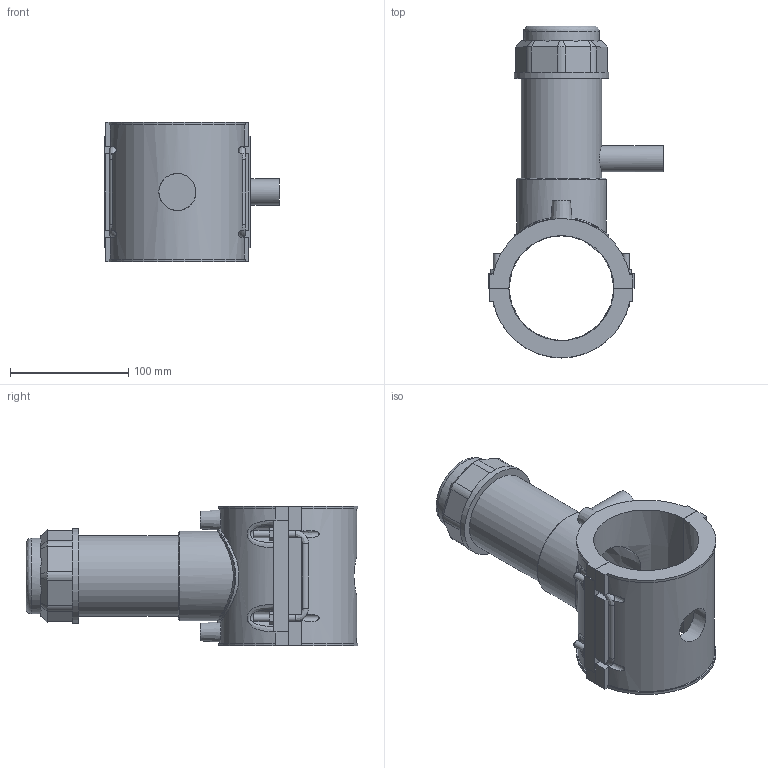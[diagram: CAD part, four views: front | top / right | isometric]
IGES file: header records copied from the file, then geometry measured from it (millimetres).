
Global section: file name: 5963BU03030007.ipt; native system: Autodesk Inventor 2019; preprocessor: unknown; author: KIM; date: 20210830.101452; units: millimetre
Bounding box: 147.56 x 280.2 x 118.11 mm (x, y, z)
Volume: 851775.2 mm3; surface area: 171794 mm2
Topology: 1 solids, 1 shells, 210 faces, 552 edges, 361 vertices
Faces by surface type: plane 128, cylinder 37, revolution 24, cone 15, bspline 6
Full cylindrical faces by diameter (mm): 4 x2, 6 x8, 22.1 x1, 63.864 x1, 67.856 x1, 75.838 x1, 79.83 x1
